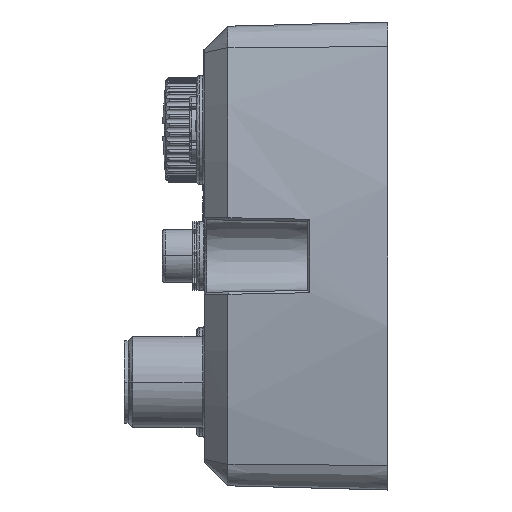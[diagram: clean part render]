
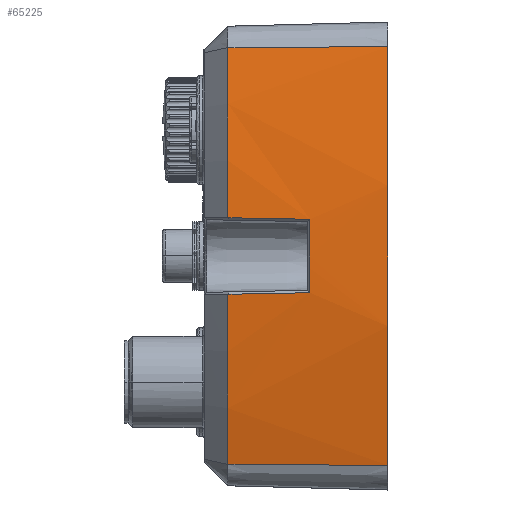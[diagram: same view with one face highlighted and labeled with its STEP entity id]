
A CAD part, left-side view. The second image highlights one B-rep face of the part: STEP entity #65225.
In plain terms, the highlighted conical face has half-angle 1.5 degrees and reference radius 125.355 mm.
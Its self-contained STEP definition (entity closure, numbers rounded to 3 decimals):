
#1483=CARTESIAN_POINT('',(-0.253,-13.793,
4.788));
#1484=CARTESIAN_POINT('',(-0.221,-12.603,
4.811));
#1485=CARTESIAN_POINT('',(-0.156,-10.223,
4.855));
#1486=CARTESIAN_POINT('',(-0.06,-6.653,
4.926));
#1487=CARTESIAN_POINT('',(0.003,-4.272,
4.968));
#1488=CARTESIAN_POINT('',(0.035,-3.081,
4.991));
#1493=CARTESIAN_POINT('',(125.016,-3.082,-0.017));
#1494=DIRECTION('',(0.,1.,0.));
#1495=DIRECTION('',(-0.999,0.,0.04));
#1496=AXIS2_PLACEMENT_3D('',#1493,#1494,#1495);
#1501=DIRECTION('',(0.026,1.,0.006));
#1502=VECTOR('',#1501,20.927);
#1503=CARTESIAN_POINT('',(2.412,-24.001,
-27.418));
#1504=LINE('',#1503,#1502);
#1508=CARTESIAN_POINT('',(125.016,-3.082,-0.017));
#1509=DIRECTION('',(0.,1.,0.));
#1510=DIRECTION('',(-0.976,0.,-0.218));
#1511=AXIS2_PLACEMENT_3D('',#1508,#1509,#1510);
#1516=CARTESIAN_POINT('',(0.035,-3.081,
-5.026));
#1517=CARTESIAN_POINT('',(0.003,-4.272,
-5.003));
#1518=CARTESIAN_POINT('',(-0.06,-6.653,
-4.961));
#1519=CARTESIAN_POINT('',(-0.156,-10.223,
-4.89));
#1520=CARTESIAN_POINT('',(-0.221,-12.603,
-4.846));
#1521=CARTESIAN_POINT('',(-0.253,-13.793,
-4.823));
#1536=CARTESIAN_POINT('',(125.016,-13.793,-0.017));
#1537=DIRECTION('',(0.,-1.,0.));
#1538=DIRECTION('',(-0.999,0.,0.038));
#1539=AXIS2_PLACEMENT_3D('',#1536,#1537,#1538);
#1544=CARTESIAN_POINT('',(125.016,-13.793,-0.017));
#1545=DIRECTION('',(0.,-1.,0.));
#1546=DIRECTION('',(-1.,0.,0.));
#1547=AXIS2_PLACEMENT_3D('',#1544,#1545,#1546);
#1731=CARTESIAN_POINT('',(125.016,-24.001,-0.017));
#1732=DIRECTION('',(0.,1.,0.));
#1733=DIRECTION('',(-0.976,0.,-0.218));
#1734=AXIS2_PLACEMENT_3D('',#1731,#1732,#1733);
#1855=DIRECTION('',(0.026,1.,-0.006));
#1856=VECTOR('',#1855,20.927);
#1857=CARTESIAN_POINT('',(2.412,-24.001,27.383));
#1858=LINE('',#1857,#1856);
#56336=CARTESIAN_POINT('',(2.412,-24.001,
-27.418));
#56337=CARTESIAN_POINT('',(2.412,-24.001,
27.383));
#56338=VERTEX_POINT('',#56336);
#56339=VERTEX_POINT('',#56337);
#56368=CARTESIAN_POINT('',(-0.346,-13.793,
-0.017));
#56369=CARTESIAN_POINT('',(-0.253,-13.793,
-4.823));
#56370=VERTEX_POINT('',#56368);
#56371=VERTEX_POINT('',#56369);
#56372=CARTESIAN_POINT('',(-0.253,-13.793,
4.788));
#56373=VERTEX_POINT('',#56372);
#56374=VERTEX_POINT('',#1488);
#56375=CARTESIAN_POINT('',(2.946,-3.082,
27.263));
#56376=VERTEX_POINT('',#56375);
#56377=CARTESIAN_POINT('',(2.946,-3.082,
-27.298));
#56378=VERTEX_POINT('',#56377);
#56379=CARTESIAN_POINT('',(0.035,-3.082,
-5.026));
#56380=VERTEX_POINT('',#56379);
#65201=CARTESIAN_POINT('',(125.016,-13.541,-0.017));
#65202=DIRECTION('',(0.,-1.,0.));
#65203=DIRECTION('',(0.,0.,-1.));
#65204=AXIS2_PLACEMENT_3D('',#65201,#65202,#65203);
#65205=CONICAL_SURFACE('',#65204,125.355,1.5);
#65207=ORIENTED_EDGE('',*,*,#65206,.F.);
#65209=ORIENTED_EDGE('',*,*,#65208,.F.);
#65210=ORIENTED_EDGE('',*,*,#65192,.T.);
#65212=ORIENTED_EDGE('',*,*,#65211,.T.);
#65214=ORIENTED_EDGE('',*,*,#65213,.F.);
#65216=ORIENTED_EDGE('',*,*,#65215,.F.);
#65218=ORIENTED_EDGE('',*,*,#65217,.T.);
#65220=ORIENTED_EDGE('',*,*,#65219,.T.);
#65222=ORIENTED_EDGE('',*,*,#65221,.T.);
#65223=EDGE_LOOP('',(#65207,#65209,#65210,#65212,#65214,#65216,#65218,#65220,
#65222));
#65224=FACE_OUTER_BOUND('',#65223,.F.);
#1489=B_SPLINE_CURVE_WITH_KNOTS('',3,(#1483,#1484,#1485,#1486,#1487,#1488),
.UNSPECIFIED.,.F.,.F.,(4,1,1,4),(0.,0.333,0.667,1.),
.UNSPECIFIED.);
#1497=CIRCLE('',#1496,125.081);
#1512=CIRCLE('',#1511,125.081);
#1522=B_SPLINE_CURVE_WITH_KNOTS('',3,(#1516,#1517,#1518,#1519,#1520,#1521),
.UNSPECIFIED.,.F.,.F.,(4,1,1,4),(0.,0.333,0.667,1.),
.UNSPECIFIED.);
#1540=CIRCLE('',#1539,125.361);
#1548=CIRCLE('',#1547,125.361);
#1735=CIRCLE('',#1734,125.628);
#65192=EDGE_CURVE('',#56373,#56374,#1489,.T.);
#65206=EDGE_CURVE('',#56370,#56371,#1548,.T.);
#65208=EDGE_CURVE('',#56373,#56370,#1540,.T.);
#65211=EDGE_CURVE('',#56374,#56376,#1497,.T.);
#65213=EDGE_CURVE('',#56339,#56376,#1858,.T.);
#65215=EDGE_CURVE('',#56338,#56339,#1735,.T.);
#65217=EDGE_CURVE('',#56338,#56378,#1504,.T.);
#65219=EDGE_CURVE('',#56378,#56380,#1512,.T.);
#65221=EDGE_CURVE('',#56380,#56371,#1522,.T.);
#65225=ADVANCED_FACE('',(#65224),#65205,.T.);
